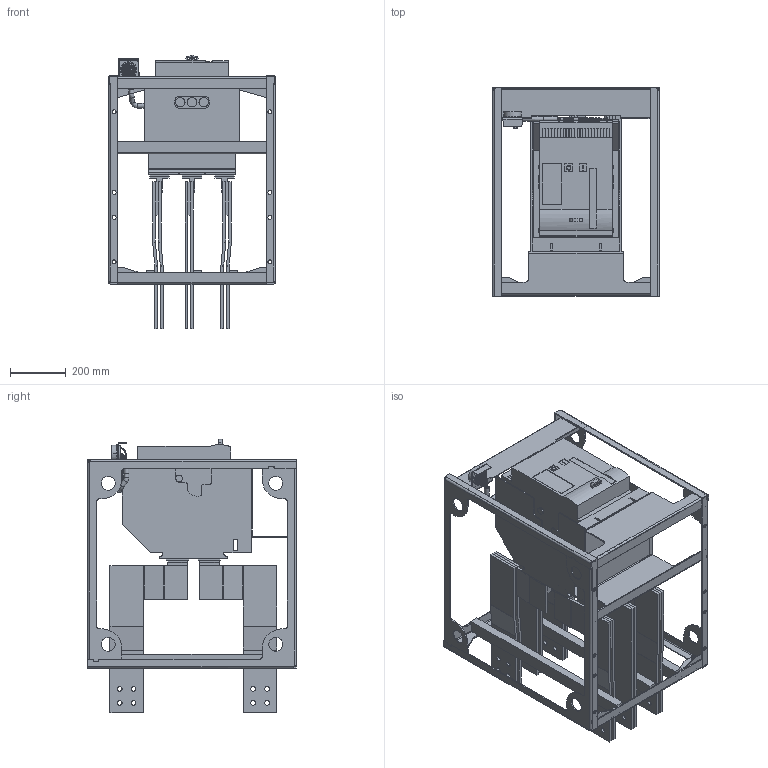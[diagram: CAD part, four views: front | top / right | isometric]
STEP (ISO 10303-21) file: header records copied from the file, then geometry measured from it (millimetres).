
FILE_DESCRIPTION (( 'STEP AP214' ), '1' );
FILE_NAME ('Ýëåêòðîí Ý25Â Ïðî_defeature+.STEP', '2022-06-07T07:27:48', ( '' ), ( '' ), 'SwSTEP 2.0', 'SolidWorks 2018', '' );
FILE_SCHEMA (( 'AUTOMOTIVE_DESIGN' ));
Length unit declared in the file: millimetre
Products named in the file (1): Ýëåêòðîí Ý25Â Ïðî_defeature+
Bounding box: 600 x 750.01 x 982.5 mm (x, y, z)
Volume: 49853573.9 mm3; surface area: 5607080.7 mm2
Topology: 72 solids, 72 shells, 4652 faces, 12254 edges, 7870 vertices
Faces by surface type: plane 3784, cylinder 707, torus 90, bspline 67, cone 4
Full cylindrical faces by diameter (mm): 2.4 x14, 4.8 x1, 6.831 x1, 8.5 x4, 8.653 x1, 8.898 x3, 10.16 x1, 10.5 x2, 11.52 x1, 12.5 x4, 12.736 x1, 13 x1, 13.022 x1, 13.576 x6, 14 x28, 17 x49, 18.176 x1, 19.176 x1, 24 x2, 34 x3, 50 x8
Entity records: 159288 total; most frequent: CARTESIAN_POINT 33562, ORIENTED_EDGE 23966, DIRECTION 22545, EDGE_CURVE 11983, LINE 10329, VECTOR 10329, VERTEX_POINT 7841, AXIS2_PLACEMENT_3D 6108
